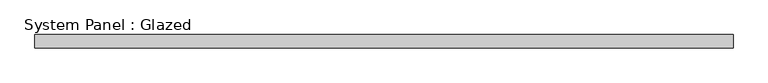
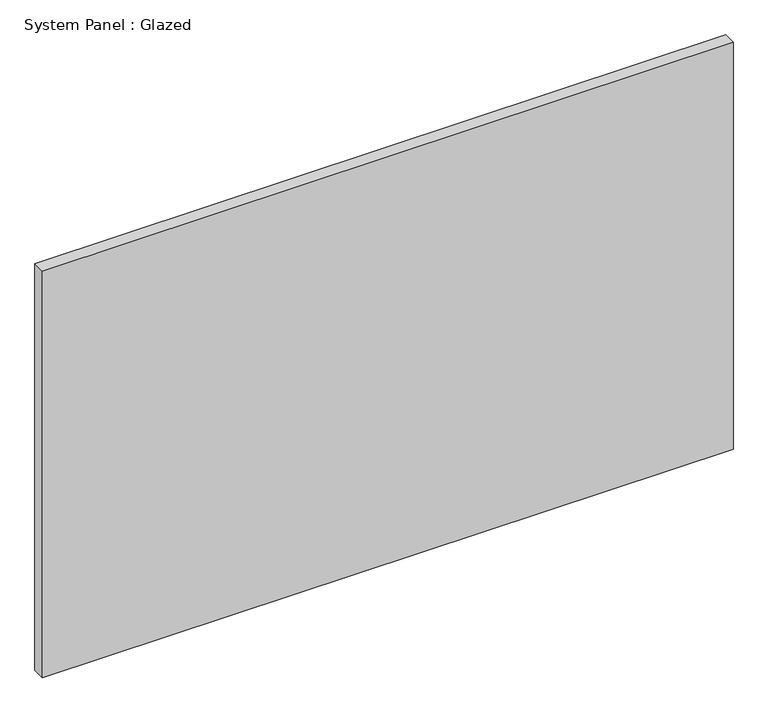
"""IFC4 building model written with IfcOpenShell, lengths in millimetres: plate geometry, System Panel : Glazed."""

import ifcopenshell
import ifcopenshell.guid

model = None  # the IFC model being written
_history = None  # IfcOwnerHistory: only IFC2X3 demands one
_inside = {}  # id of a spatial element -> (the spatial element, [elements in it])
_under = {}  # id of a project, library or spatial element -> (it, [spatial elements below it])
_declared = {}  # id of a project -> (the project, [libraries it declares])
_typed = {}  # id of a type object -> (the type object, [elements of that type])
_made_of = {}  # id of a material, layer set ... -> (it, [elements and type objects made of it])


def new_model(schema):
    """Start an empty IFC model of exactly this schema.

    Asked for "IFC4X3", IfcOpenShell would pick the latest addendum, in which some entities
    have other attributes; the version numbers below select the first issue.
    IFC2X3 requires an IfcOwnerHistory on every rooted entity: one is made here for all.
    """
    global model, _history
    if schema == "IFC4X3":
        model = ifcopenshell.file(schema_version=(4, 3, 0, 0))
    else:
        model = ifcopenshell.file(schema=schema)
    _inside.clear()
    _under.clear()
    _declared.clear()
    _typed.clear()
    _made_of.clear()
    _history = None
    if model.schema == "IFC2X3":
        org = make("IfcOrganization", Name="unknown")
        user = make(
            "IfcPersonAndOrganization",
            ThePerson=make("IfcPerson", FamilyName="unknown"),
            TheOrganization=org,
        )
        app = make(
            "IfcApplication",
            ApplicationDeveloper=org,
            Version="unknown",
            ApplicationFullName="unknown",
            ApplicationIdentifier="unknown",
        )
        _history = make(
            "IfcOwnerHistory",
            OwningUser=user,
            OwningApplication=app,
            ChangeAction="ADDED",
            CreationDate=0,
        )
    return model


def make(cls, **values):
    """One entity of the class cls with the attributes given. An attribute that is None is left unset."""
    return model.create_entity(
        cls, **{name: value for name, value in values.items() if value is not None}
    )


def rooted(cls, **values):
    """An entity with a GlobalId (a new one), such as an element, a storey or a relation."""
    return make(cls, GlobalId=ifcopenshell.guid.new(), OwnerHistory=_history, **values)


def si_unit(unit_type, name, prefix=None):
    """IfcSIUnit, for example si_unit("LENGTHUNIT", "METRE", prefix="MILLI")."""
    return make("IfcSIUnit", UnitType=unit_type, Prefix=prefix, Name=name)


def assignment(units):
    """IfcUnitAssignment: the units of a project."""
    return None if units is None else make("IfcUnitAssignment", Units=units)


def point(xyz):
    """IfcCartesianPoint."""
    return None if xyz is None else make("IfcCartesianPoint", Coordinates=xyz)


def direction(xyz):
    """IfcDirection."""
    return None if xyz is None else make("IfcDirection", DirectionRatios=xyz)


def frame(location, z_axis=None, x_axis=None):
    """IfcAxis2Placement3D, a coordinate frame: its origin and axes. An axis left out is left unset."""
    return make(
        "IfcAxis2Placement3D",
        Location=point(location),
        Axis=direction(z_axis),
        RefDirection=direction(x_axis),
    )


def origin():
    """The frame at (0, 0, 0) with its axes left unset."""
    return frame((0.0, 0.0, 0.0))


def origin_with_axes():
    """The frame at (0, 0, 0) with the z axis (0, 0, 1) and the x axis (1, 0, 0) written out."""
    return frame((0.0, 0.0, 0.0), z_axis=(0.0, 0.0, 1.0), x_axis=(1.0, 0.0, 0.0))


def place(relative_to, where):
    """IfcLocalPlacement: puts the frame where relative to a parent placement (None: the world)."""
    return make(
        "IfcLocalPlacement", PlacementRelTo=relative_to, RelativePlacement=where
    )


def context(
    kind, dimensions, precision=None, world=None, true_north=None, identifier=None
):
    """IfcGeometricRepresentationContext, for example the 3D "Model" context."""
    return make(
        "IfcGeometricRepresentationContext",
        ContextIdentifier=identifier,
        ContextType=kind,
        CoordinateSpaceDimension=dimensions,
        Precision=precision,
        WorldCoordinateSystem=world,
        TrueNorth=true_north,
    )


def project(units=None, contexts=None):
    """IfcProject with its units and contexts."""
    return rooted(
        "IfcProject",
        Name="project",
        RepresentationContexts=contexts,
        UnitsInContext=assignment(units),
    )


def spatial(cls, under=None, at=None, **own):
    """A site, building, storey or space (cls), placed at a placement, below another one or the project."""
    s = rooted(cls, ObjectPlacement=at, **own)
    if under is not None:
        _under.setdefault(under.id(), (under, []))[1].append(s)
    return s


def polyline(points):
    """IfcPolyline through the points."""
    return make("IfcPolyline", Points=[point(p) for p in points])


def outline(outer, holes=None, kind="AREA"):
    """IfcArbitraryClosedProfileDef: a profile drawn as a closed curve; with holes, ...WithVoids."""
    if holes is None:
        return make("IfcArbitraryClosedProfileDef", ProfileType=kind, OuterCurve=outer)
    return make(
        "IfcArbitraryProfileDefWithVoids",
        ProfileType=kind,
        OuterCurve=outer,
        InnerCurves=holes,
    )


def extrude(swept, where, along, depth):
    """IfcExtrudedAreaSolid: the profile swept, set in the frame where, extruded along a direction by depth."""
    return make(
        "IfcExtrudedAreaSolid",
        SweptArea=swept,
        Position=where,
        ExtrudedDirection=direction(along),
        Depth=depth,
    )


def shape(context_of_items, identifier, shape_type, items):
    """IfcShapeRepresentation: the items that make up one representation, for example the "Body"."""
    return make(
        "IfcShapeRepresentation",
        ContextOfItems=context_of_items,
        RepresentationIdentifier=identifier,
        RepresentationType=shape_type,
        Items=items,
    )


def source(mapping_origin, context_of_items, identifier, shape_type, items):
    """IfcRepresentationMap: a shape defined once, which mapped items show again and again."""
    return make(
        "IfcRepresentationMap",
        MappingOrigin=mapping_origin,
        MappedRepresentation=shape(context_of_items, identifier, shape_type, items),
    )


def transform(
    local_origin,
    x_axis=None,
    y_axis=None,
    z_axis=None,
    scale=None,
    scale2=None,
    scale3=None,
    uniform=True,
):
    """IfcCartesianTransformationOperator3D, or its non-uniform kind. x_axis, y_axis, z_axis: its Axis1, 2, 3."""
    if uniform:
        return make(
            "IfcCartesianTransformationOperator3D",
            Axis1=direction(x_axis),
            Axis2=direction(y_axis),
            LocalOrigin=point(local_origin),
            Scale=scale,
            Axis3=direction(z_axis),
        )
    return make(
        "IfcCartesianTransformationOperator3DnonUniform",
        Axis1=direction(x_axis),
        Axis2=direction(y_axis),
        LocalOrigin=point(local_origin),
        Scale=scale,
        Axis3=direction(z_axis),
        Scale2=scale2,
        Scale3=scale3,
    )


def mapped(mapping_source, mapping_target):
    """IfcMappedItem: shows the shape of a source again, moved by a transform."""
    return make(
        "IfcMappedItem", MappingSource=mapping_source, MappingTarget=mapping_target
    )


def made_of(thing, what):
    """Note that an element or type object is made of a material, layer set ...; save() writes the relation."""
    if what is not None:
        _made_of.setdefault(what.id(), (what, []))[1].append(thing)
    return thing


def element(
    cls,
    number,
    at=None,
    inside=None,
    cuts=None,
    type_object=None,
    material=None,
    context=None,
    identifier="Body",
    shape_type=None,
    held_by="IfcProductDefinitionShape",
    body=None,
    shapes=None,
    **own,
):
    """One element of the class cls, such as IfcWall. Its Tag is "e" and its number.

    at: its placement. inside: the storey or other place that contains it. cuts: it is an
    opening in that element (IfcRelVoidsElement). A single representation is given by context,
    identifier, shape_type and body (its items); several are given by shapes. held_by: the class
    of the entity that holds the representations. save() writes the other relations.
    """
    e = rooted(cls, Tag="e%d" % number, ObjectPlacement=at, **own)
    if body is not None:
        shapes = [shape(context, identifier, shape_type, body)]
    if shapes is not None:
        e.Representation = make(held_by, Representations=shapes)
    if inside is not None:
        _inside.setdefault(inside.id(), (inside, []))[1].append(e)
    if cuts is not None:
        rooted(
            "IfcRelVoidsElement", RelatingBuildingElement=cuts, RelatedOpeningElement=e
        )
    if type_object is not None:
        _typed.setdefault(type_object.id(), (type_object, []))[1].append(e)
    return made_of(e, material)


def aggregate(whole, parts):
    """IfcRelAggregates: a whole, such as a stair, and the parts it consists of."""
    return rooted("IfcRelAggregates", RelatingObject=whole, RelatedObjects=parts)


def save(model, path):
    """Write the relations noted so far, then the file.

    IfcRelAggregates (storeys below a building ...), IfcRelContainedInSpatialStructure (elements
    in a storey), IfcRelDefinesByType, IfcRelAssociatesMaterial and IfcRelDeclares: one each for
    every whole, place, type object, material and project.
    """
    for whole, parts in _under.values():
        aggregate(whole, parts)
    for where, things in _inside.values():
        rooted(
            "IfcRelContainedInSpatialStructure",
            RelatedElements=things,
            RelatingStructure=where,
        )
    for kind, things in _typed.values():
        rooted("IfcRelDefinesByType", RelatedObjects=things, RelatingType=kind)
    for what, things in _made_of.values():
        rooted("IfcRelAssociatesMaterial", RelatedObjects=things, RelatingMaterial=what)
    for by, libraries in _declared.values():
        rooted("IfcRelDeclares", RelatingContext=by, RelatedDefinitions=libraries)
    model.write(path)


def system_panel_glazed_c834e0ad(model_context):
    return source(origin(), model_context, "Body", "SweptSolid", [
        extrude(outline(polyline([(662.5576759, 24.5), (-662.5576759, 24.5), (-662.5576759, 49.5), (662.5576759, 49.5), (662.5576759, 24.5)])), origin_with_axes(), (0.0, 0.0, 1.0), 825.0),
    ])


if __name__ == "__main__":
    model = new_model("IFC4")
    model_context = context("Model", 3, world=origin())
    ifc_project = project(units=[si_unit("LENGTHUNIT", "METRE", prefix="MILLI")], contexts=[model_context])
    site = spatial("IfcSite", under=ifc_project)
    building = spatial("IfcBuilding", under=site)
    placement = place(None, origin())
    system_panel_glazed_shape = system_panel_glazed_c834e0ad(model_context)
    element("IfcPlate", 1, ObjectType="System Panel : Glazed", at=placement, inside=building, context=model_context, shape_type="MappedRepresentation", body=[
        mapped(system_panel_glazed_shape, transform((0.0, 0.0, 0.0), x_axis=(1.0, 0.0, 0.0), y_axis=(0.0, 1.0, 0.0), z_axis=(0.0, 0.0, 1.0))),
    ])
    save(model, "model.ifc")
